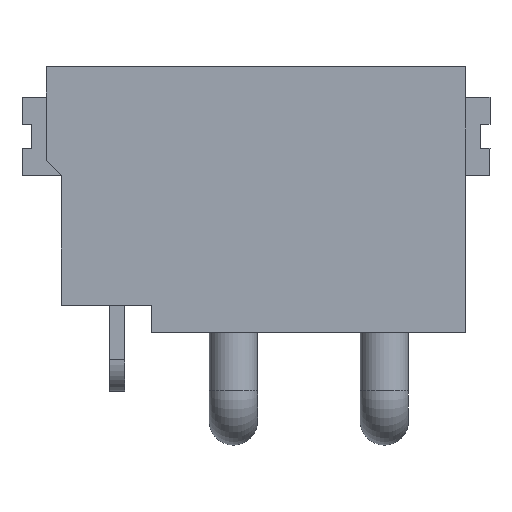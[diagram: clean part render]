
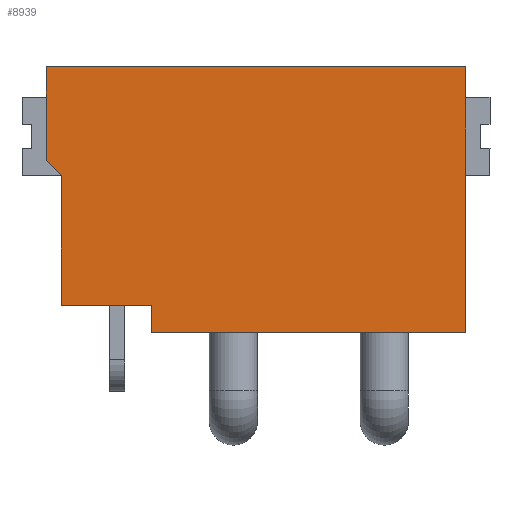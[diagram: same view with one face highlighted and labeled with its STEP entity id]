
A CAD part, left-side view. The second image highlights one B-rep face of the part: STEP entity #8939.
In plain terms, the highlighted planar face has unit normal (-1, 0, 0).
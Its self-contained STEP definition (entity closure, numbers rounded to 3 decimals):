
#440=PLANE('',#9655);
#894=FACE_OUTER_BOUND('',#1389,.T.);
#1389=EDGE_LOOP('',(#7743,#7744,#7745,#7746,#7747,#7748,#7749,#7750));
#2058=LINE('',#14089,#3056);
#2069=LINE('',#14112,#3067);
#2074=LINE('',#14122,#3072);
#2262=LINE('',#14507,#3260);
#2263=LINE('',#14509,#3261);
#2264=LINE('',#14511,#3262);
#2265=LINE('',#14513,#3263);
#2266=LINE('',#14514,#3264);
#3056=VECTOR('',#11231,1.);
#3067=VECTOR('',#11250,1.);
#3072=VECTOR('',#11265,1.);
#3260=VECTOR('',#11653,1.);
#3261=VECTOR('',#11654,1.);
#3262=VECTOR('',#11655,1.);
#3263=VECTOR('',#11656,1.);
#3264=VECTOR('',#11657,1.);
#4351=VERTEX_POINT('',#14087);
#4352=VERTEX_POINT('',#14088);
#4356=VERTEX_POINT('',#14101);
#4360=VERTEX_POINT('',#14110);
#4457=VERTEX_POINT('',#14506);
#4458=VERTEX_POINT('',#14508);
#4459=VERTEX_POINT('',#14510);
#4460=VERTEX_POINT('',#14512);
#5411=EDGE_CURVE('',#4351,#4352,#2058,.T.);
#5424=EDGE_CURVE('',#4360,#4356,#2069,.T.);
#5429=EDGE_CURVE('',#4352,#4356,#2074,.T.);
#5620=EDGE_CURVE('',#4457,#4360,#2262,.T.);
#5621=EDGE_CURVE('',#4458,#4457,#2263,.T.);
#5622=EDGE_CURVE('',#4459,#4458,#2264,.T.);
#5623=EDGE_CURVE('',#4459,#4460,#2265,.T.);
#5624=EDGE_CURVE('',#4351,#4460,#2266,.T.);
#7743=ORIENTED_EDGE('',*,*,#5620,.F.);
#7744=ORIENTED_EDGE('',*,*,#5621,.F.);
#7745=ORIENTED_EDGE('',*,*,#5622,.F.);
#7746=ORIENTED_EDGE('',*,*,#5623,.T.);
#7747=ORIENTED_EDGE('',*,*,#5624,.F.);
#7748=ORIENTED_EDGE('',*,*,#5411,.T.);
#7749=ORIENTED_EDGE('',*,*,#5429,.T.);
#7750=ORIENTED_EDGE('',*,*,#5424,.F.);
#8939=ADVANCED_FACE('',(#894),#440,.T.);
#9655=AXIS2_PLACEMENT_3D('',#14505,#11651,#11652);
#11231=DIRECTION('',(0.,-1.,0.));
#11250=DIRECTION('',(0.,1.,0.));
#11265=DIRECTION('',(0.,0.,-1.));
#11651=DIRECTION('center_axis',(-1.,0.,0.));
#11652=DIRECTION('ref_axis',(0.,0.,1.));
#11653=DIRECTION('',(0.,0.,-1.));
#11654=DIRECTION('',(0.,-1.,0.));
#11655=DIRECTION('',(0.,0.,1.));
#11656=DIRECTION('',(0.,-0.707,-0.707));
#11657=DIRECTION('',(0.,0.,1.));
#14087=CARTESIAN_POINT('',(0.,14.2,-7.9));
#14088=CARTESIAN_POINT('',(0.,11.2,-7.9));
#14089=CARTESIAN_POINT('',(0.,12.7,-7.9));
#14101=CARTESIAN_POINT('',(0.,11.2,-8.8));
#14110=CARTESIAN_POINT('',(0.,0.8,-8.8));
#14112=CARTESIAN_POINT('',(0.,6.,-8.8));
#14122=CARTESIAN_POINT('',(0.,11.2,-8.35));
#14505=CARTESIAN_POINT('Origin',(0.,11.2,-10.3));
#14506=CARTESIAN_POINT('',(0.,0.8,0.));
#14507=CARTESIAN_POINT('',(0.,0.8,-4.4));
#14508=CARTESIAN_POINT('',(0.,14.7,0.));
#14509=CARTESIAN_POINT('',(0.,7.75,0.));
#14510=CARTESIAN_POINT('',(0.,14.7,-3.1));
#14511=CARTESIAN_POINT('',(0.,14.7,-1.55));
#14512=CARTESIAN_POINT('',(0.,14.2,-3.6));
#14513=CARTESIAN_POINT('',(0.,14.45,-3.35));
#14514=CARTESIAN_POINT('',(0.,14.2,-5.75));
